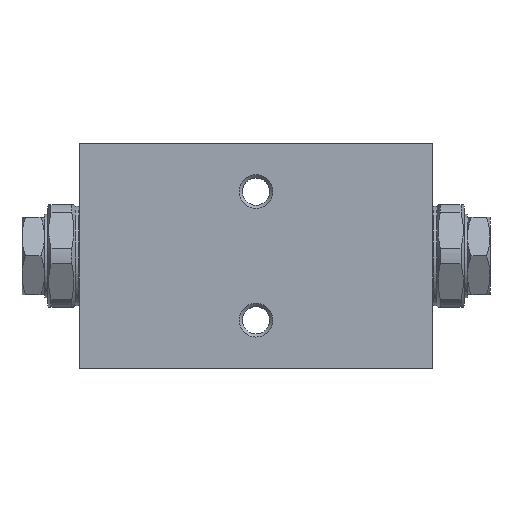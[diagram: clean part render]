
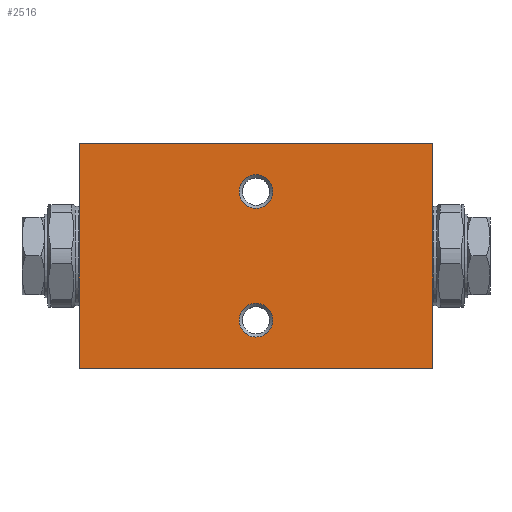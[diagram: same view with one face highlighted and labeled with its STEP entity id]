
A CAD part, top view. The second image highlights one B-rep face of the part: STEP entity #2516.
In plain terms, the highlighted planar face has unit normal (0, 0, 1).
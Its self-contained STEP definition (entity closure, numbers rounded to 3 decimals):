
#143=FACE_BOUND('',#436,.T.);
#144=FACE_BOUND('',#437,.T.);
#177=PLANE('',#2740);
#286=FACE_OUTER_BOUND('',#435,.T.);
#435=EDGE_LOOP('',(#1705,#1706,#1707,#1708));
#436=EDGE_LOOP('',(#1709));
#437=EDGE_LOOP('',(#1710));
#597=LINE('',#3931,#706);
#601=LINE('',#3943,#710);
#604=LINE('',#3951,#713);
#605=LINE('',#3952,#714);
#706=VECTOR('',#3104,10.);
#710=VECTOR('',#3114,10.);
#713=VECTOR('',#3121,10.);
#714=VECTOR('',#3122,10.);
#828=CIRCLE('',#2731,5.25);
#834=CIRCLE('',#2741,5.25);
#993=VERTEX_POINT('',#3919);
#996=VERTEX_POINT('',#3929);
#997=VERTEX_POINT('',#3930);
#1002=VERTEX_POINT('',#3942);
#1005=VERTEX_POINT('',#3950);
#1006=VERTEX_POINT('',#3953);
#1264=EDGE_CURVE('',#993,#993,#828,.T.);
#1269=EDGE_CURVE('',#996,#997,#597,.T.);
#1275=EDGE_CURVE('',#1002,#996,#601,.T.);
#1279=EDGE_CURVE('',#997,#1005,#604,.T.);
#1280=EDGE_CURVE('',#1005,#1002,#605,.T.);
#1281=EDGE_CURVE('',#1006,#1006,#834,.T.);
#1705=ORIENTED_EDGE('',*,*,#1279,.F.);
#1706=ORIENTED_EDGE('',*,*,#1269,.F.);
#1707=ORIENTED_EDGE('',*,*,#1275,.F.);
#1708=ORIENTED_EDGE('',*,*,#1280,.F.);
#1709=ORIENTED_EDGE('',*,*,#1264,.F.);
#1710=ORIENTED_EDGE('',*,*,#1281,.F.);
#2516=ADVANCED_FACE('',(#286,#143,#144),#177,.T.);
#2731=AXIS2_PLACEMENT_3D('',#3920,#3092,#3093);
#2740=AXIS2_PLACEMENT_3D('',#3949,#3119,#3120);
#2741=AXIS2_PLACEMENT_3D('',#3954,#3123,#3124);
#3092=DIRECTION('center_axis',(0.,0.,1.));
#3093=DIRECTION('ref_axis',(-1.,0.,0.));
#3104=DIRECTION('',(-1.,0.,0.));
#3114=DIRECTION('',(0.,-1.,0.));
#3119=DIRECTION('center_axis',(0.,0.,1.));
#3120=DIRECTION('ref_axis',(1.,0.,0.));
#3121=DIRECTION('',(0.,1.,0.));
#3122=DIRECTION('',(1.,0.,0.));
#3123=DIRECTION('center_axis',(0.,0.,1.));
#3124=DIRECTION('ref_axis',(-1.,0.,0.));
#3919=CARTESIAN_POINT('',(5.25,-20.,17.5));
#3920=CARTESIAN_POINT('Origin',(0.,-20.,17.5));
#3929=CARTESIAN_POINT('',(55.,-35.,17.5));
#3930=CARTESIAN_POINT('',(-55.,-35.,17.5));
#3931=CARTESIAN_POINT('',(-55.,-35.,17.5));
#3942=CARTESIAN_POINT('',(55.,35.,17.5));
#3943=CARTESIAN_POINT('',(55.,-35.,17.5));
#3949=CARTESIAN_POINT('Origin',(0.,0.,
17.5));
#3950=CARTESIAN_POINT('',(-55.,35.,17.5));
#3951=CARTESIAN_POINT('',(-55.,35.,17.5));
#3952=CARTESIAN_POINT('',(55.,35.,17.5));
#3953=CARTESIAN_POINT('',(5.25,20.,17.5));
#3954=CARTESIAN_POINT('Origin',(0.,20.,17.5));
